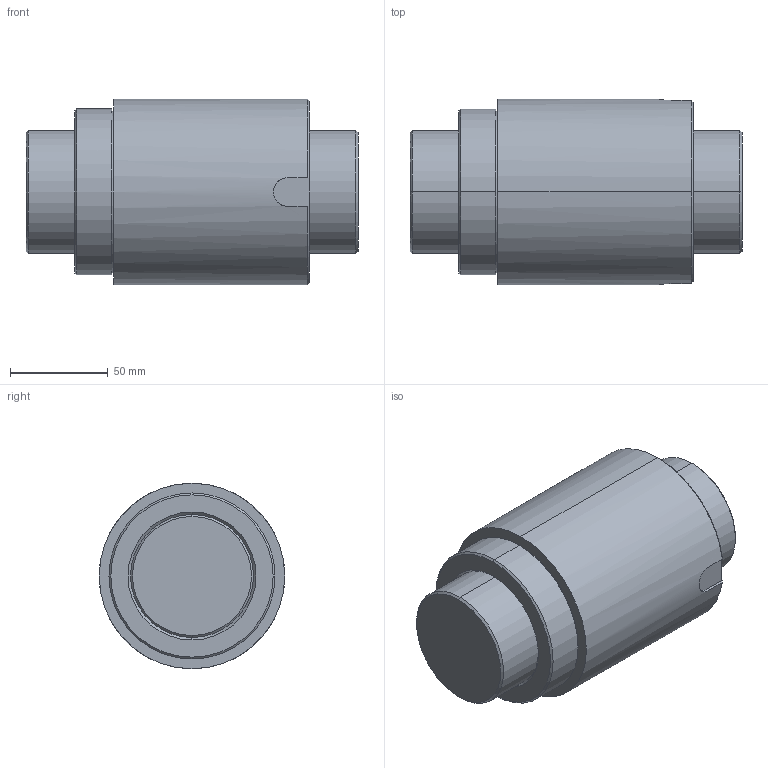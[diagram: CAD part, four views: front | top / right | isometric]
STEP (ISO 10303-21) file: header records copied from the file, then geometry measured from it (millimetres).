
FILE_DESCRIPTION(('no description'),'unknown implementation level');
FILE_NAME('R63_10T6_SE_170_170_0_023_13.stp',' ',('HIWIN GmbH'),('CADClick - KiM GmbH - www.kimweb.de'),'unknown preprocess','ACIS','unknown authorization');
FILE_SCHEMA(('automotive_design'));
Length unit declared in the file: millimetre
Products named in the file (2): R63-10T6-SE 170 170 0.023; R63-10T6-SE 170 170 0.023_1
Bounding box: 170 x 95 x 95 mm (x, y, z)
Volume: 976234.2 mm3; surface area: 106531 mm2
Topology: 2 solids, 2 shells, 40 faces, 90 edges, 56 vertices
Faces by surface type: cone 14, cylinder 14, plane 12
Entity records: 2275 total; most frequent: CARTESIAN_POINT 264, DIRECTION 206, STYLED_ITEM 188, PRESENTATION_STYLE_ASSIGNMENT 188, COLOUR_RGB 188, ORIENTED_EDGE 180, EDGE_CURVE 90, CURVE_STYLE 90
